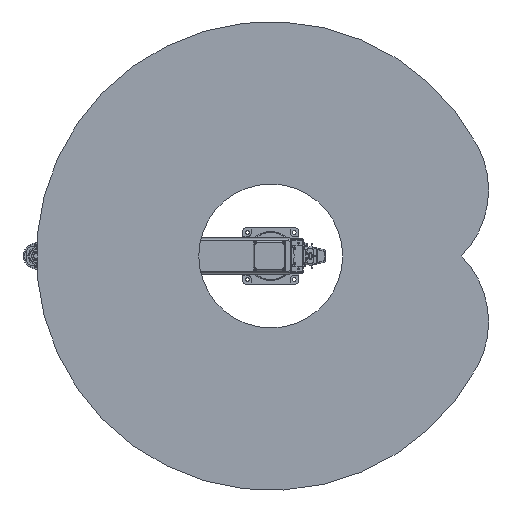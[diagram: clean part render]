
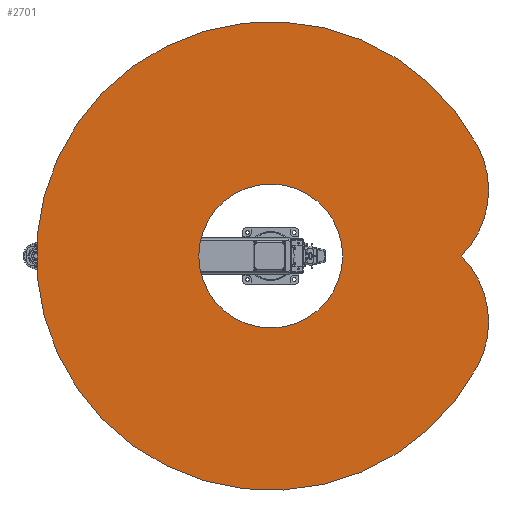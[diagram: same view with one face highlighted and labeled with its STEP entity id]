
A CAD part, front view. The second image highlights one B-rep face of the part: STEP entity #2701.
In plain terms, the highlighted planar face has unit normal (0, -1, 0).
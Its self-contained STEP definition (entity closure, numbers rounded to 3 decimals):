
#2701 = ADVANCED_FACE( '', ( #7757, #7758 ), #7759, .F. );
#7757 = FACE_BOUND( '', #16175, .T. );
#7758 = FACE_OUTER_BOUND( '', #16176, .T. );
#7759 = PLANE( '', #16177 );
#16175 = EDGE_LOOP( '', ( #25913 ) );
#16176 = EDGE_LOOP( '', ( #25914, #25915, #25916 ) );
#16177 = AXIS2_PLACEMENT_3D( '', #25917, #25918, #25919 );
#25913 = ORIENTED_EDGE( '', *, *, #46342, .T. );
#25914 = ORIENTED_EDGE( '', *, *, #46343, .F. );
#25915 = ORIENTED_EDGE( '', *, *, #46344, .F. );
#25916 = ORIENTED_EDGE( '', *, *, #46345, .F. );
#25917 = CARTESIAN_POINT( '', ( 140.842, 0., 264.885 ) );
#25918 = DIRECTION( '', ( 0., 1., 0. ) );
#25919 = DIRECTION( '', ( 0., 0., 1. ) );
#46342 = EDGE_CURVE( '', #54425, #54425, #54426, .T. );
#46343 = EDGE_CURVE( '', #54427, #54428, #54429, .T. );
#46344 = EDGE_CURVE( '', #54430, #54427, #54431, .T. );
#46345 = EDGE_CURVE( '', #54428, #54430, #54432, .T. );
#54425 = VERTEX_POINT( '', #66342 );
#54426 = CIRCLE( '', #66343, 307. );
#54427 = VERTEX_POINT( '', #66344 );
#54428 = VERTEX_POINT( '', #66345 );
#54429 = CIRCLE( '', #66346, 400. );
#54430 = VERTEX_POINT( '', #66347 );
#54431 = CIRCLE( '', #66348, 400. );
#54432 = CIRCLE( '', #66349, 1000. );
#66342 = CARTESIAN_POINT( '', ( 307., 0., 0. ) );
#66343 = AXIS2_PLACEMENT_3D( '', #85592, #85593, #85594 );
#66344 = CARTESIAN_POINT( '', ( 0., 0., 813.767 ) );
#66345 = CARTESIAN_POINT( '', ( 468.809, 0., 883.299 ) );
#66346 = AXIS2_PLACEMENT_3D( '', #85595, #85596, #85597 );
#66347 = CARTESIAN_POINT( '', ( -468.809, 0., 883.299 ) );
#66348 = AXIS2_PLACEMENT_3D( '', #85598, #85599, #85600 );
#66349 = AXIS2_PLACEMENT_3D( '', #85601, #85602, #85603 );
#85592 = CARTESIAN_POINT( '', ( 0., 0., 0. ) );
#85593 = DIRECTION( '', ( 0., 1., 0. ) );
#85594 = DIRECTION( '', ( 1., 0., 0. ) );
#85595 = CARTESIAN_POINT( '', ( 281.683, 0., 529.769 ) );
#85596 = DIRECTION( '', ( 0., 1., 0. ) );
#85597 = DIRECTION( '', ( 1., 0., 0. ) );
#85598 = CARTESIAN_POINT( '', ( -281.683, 0., 529.769 ) );
#85599 = DIRECTION( '', ( 0., 1., 0. ) );
#85600 = DIRECTION( '', ( 1., 0., 0. ) );
#85601 = CARTESIAN_POINT( '', ( 0., 0., 0. ) );
#85602 = DIRECTION( '', ( 0., 1., 0. ) );
#85603 = DIRECTION( '', ( 1., 0., 0. ) );
